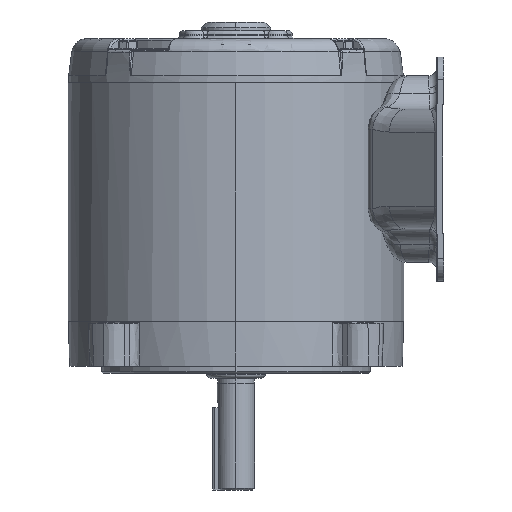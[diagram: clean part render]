
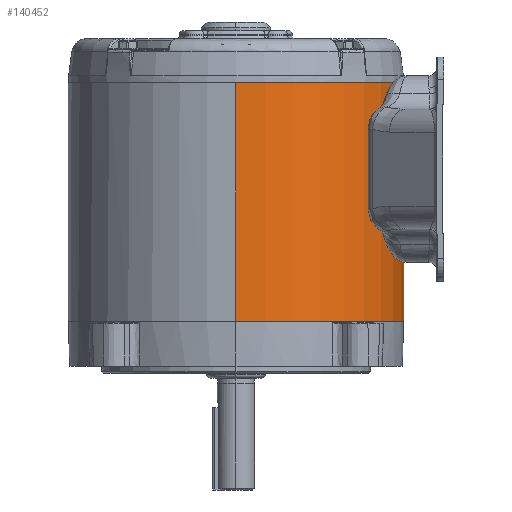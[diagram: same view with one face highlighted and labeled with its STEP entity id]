
A CAD part, left-side view. The second image highlights one B-rep face of the part: STEP entity #140452.
In plain terms, the highlighted cylindrical face has radius 71.369 mm (diameter 142.738 mm), a partial arc.
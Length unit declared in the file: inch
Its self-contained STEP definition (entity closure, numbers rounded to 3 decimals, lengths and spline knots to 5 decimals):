
#1 = DIRECTION ( 'NONE',  ( 0., 0., 1. ) ) ;
#22804 = CYLINDRICAL_SURFACE ( 'NONE', #55925, 2.8098 ) ;
#26170 = CARTESIAN_POINT ( 'NONE',  ( 0., 0., 4.0625 ) ) ;
#26517 = LINE ( 'NONE', #91058, #142502 ) ;
#31654 = DIRECTION ( 'NONE',  ( 0., 0., 1. ) ) ;
#33192 = CIRCLE ( 'NONE', #127602, 2.8098 ) ;
#33458 = EDGE_LOOP ( 'NONE', ( #53240, #38542, #121055, #110596 ) ) ;
#37412 = DIRECTION ( 'NONE',  ( 1., 0., 0. ) ) ;
#38542 = ORIENTED_EDGE ( 'NONE', *, *, #141220, .T. ) ;
#43858 = DIRECTION ( 'NONE',  ( 0., 0., 1. ) ) ;
#44690 = EDGE_CURVE ( 'NONE', #45555, #55152, #113420, .T. ) ;
#45044 = EDGE_CURVE ( 'NONE', #55152, #56360, #48304, .T. ) ;
#45555 = VERTEX_POINT ( 'NONE', #78119 ) ;
#48304 = CIRCLE ( 'NONE', #136419, 2.8098 ) ;
#53240 = ORIENTED_EDGE ( 'NONE', *, *, #70742, .F. ) ;
#55152 = VERTEX_POINT ( 'NONE', #123851 ) ;
#55925 = AXIS2_PLACEMENT_3D ( 'NONE', #87793, #143287, #132507 ) ;
#56360 = VERTEX_POINT ( 'NONE', #96513 ) ;
#57227 = VECTOR ( 'NONE', #31654, 39.37008 ) ;
#67307 = CARTESIAN_POINT ( 'NONE',  ( 0., 0., 0.0625 ) ) ;
#70742 = EDGE_CURVE ( 'NONE', #87920, #56360, #26517, .T. ) ;
#78119 = CARTESIAN_POINT ( 'NONE',  ( -0.01022, -2.80978, 0.0625 ) ) ;
#78621 = DIRECTION ( 'NONE',  ( -1., 0., 0. ) ) ;
#87793 = CARTESIAN_POINT ( 'NONE',  ( 0., 0., -17.81001 ) ) ;
#87920 = VERTEX_POINT ( 'NONE', #100813 ) ;
#91058 = CARTESIAN_POINT ( 'NONE',  ( -2.8098, 0., -17.81001 ) ) ;
#96513 = CARTESIAN_POINT ( 'NONE',  ( -2.8098, 0., 4.0625 ) ) ;
#98925 = CARTESIAN_POINT ( 'NONE',  ( -0.01022, -2.80978, -17.81001 ) ) ;
#100813 = CARTESIAN_POINT ( 'NONE',  ( -2.8098, 0., 0.0625 ) ) ;
#104735 = DIRECTION ( 'NONE',  ( 0., 0., -1. ) ) ;
#110596 = ORIENTED_EDGE ( 'NONE', *, *, #45044, .T. ) ;
#113420 = LINE ( 'NONE', #98925, #57227 ) ;
#115902 = FACE_OUTER_BOUND ( 'NONE', #33458, .T. ) ;
#121055 = ORIENTED_EDGE ( 'NONE', *, *, #44690, .T. ) ;
#123851 = CARTESIAN_POINT ( 'NONE',  ( -0.01022, -2.80978, 4.0625 ) ) ;
#127602 = AXIS2_PLACEMENT_3D ( 'NONE', #67307, #1, #78621 ) ;
#132507 = DIRECTION ( 'NONE',  ( 1., 0., 0. ) ) ;
#136419 = AXIS2_PLACEMENT_3D ( 'NONE', #26170, #104735, #37412 ) ;
#140452 = ADVANCED_FACE ( 'NONE', ( #115902 ), #22804, .T. ) ;
#141220 = EDGE_CURVE ( 'NONE', #87920, #45555, #33192, .T. ) ;
#142502 = VECTOR ( 'NONE', #43858, 39.37008 ) ;
#143287 = DIRECTION ( 'NONE',  ( 0., 0., 1. ) ) ;
